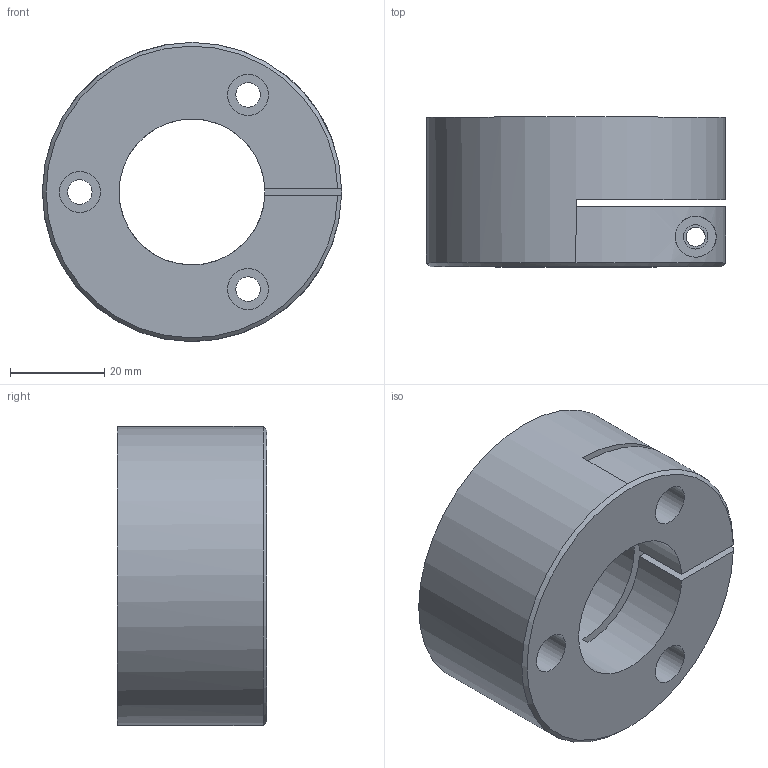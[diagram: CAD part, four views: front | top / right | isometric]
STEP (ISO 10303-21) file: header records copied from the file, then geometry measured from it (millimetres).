
FILE_DESCRIPTION (( 'STEP AP203' ), '1' );
FILE_NAME ('TC-25.STEP', '2012-07-09T14:04:49', ( 'Eng-6' ), ( 'Hewlett-Packard Company' ), 'SwSTEP 2.0', 'SolidWorks 2012', '' );
FILE_SCHEMA (( 'CONFIG_CONTROL_DESIGN' ));
Length unit declared in the file: inch
Products named in the file (1): TC-25
Bounding box: 63.5 x 31.75 x 63.5 mm (x, y, z)
Volume: 68420.2 mm3; surface area: 19718.7 mm2
Topology: 1 solids, 1 shells, 37 faces, 80 edges, 52 vertices
Faces by surface type: cylinder 19, plane 17, cone 1
Full cylindrical faces by diameter (mm): 4.089 x1, 5.207 x4, 8.712 x6, 30.988 x2, 34.29 x1, 34.925 x1, 38.481 x1, 63.5 x1
Entity records: 1129 total; most frequent: CARTESIAN_POINT 283, DIRECTION 166, ORIENTED_EDGE 118, AXIS2_PLACEMENT_3D 75, EDGE_LOOP 75, EDGE_CURVE 59, FACE_OUTER_BOUND 52, VERTEX_POINT 50
